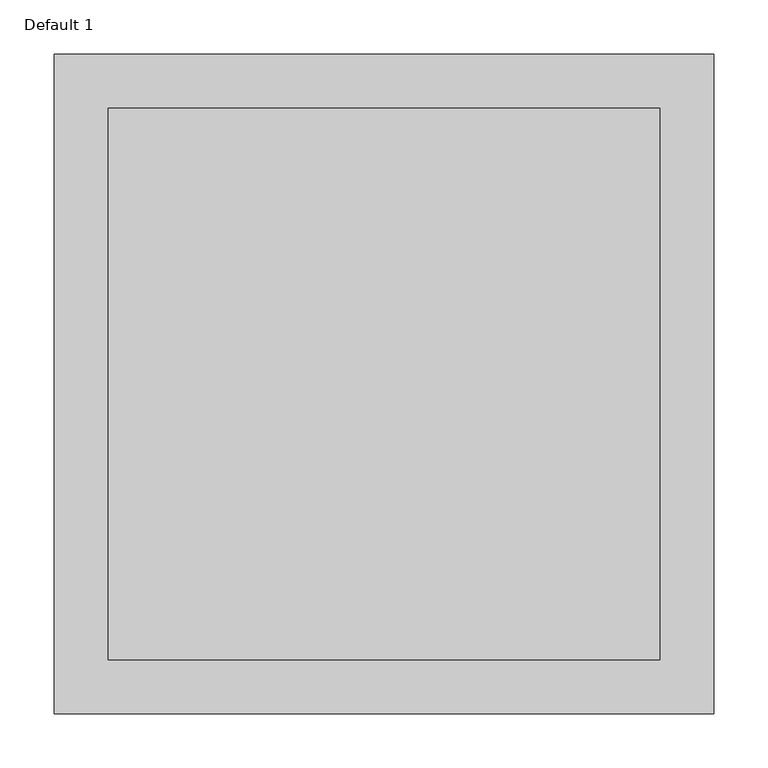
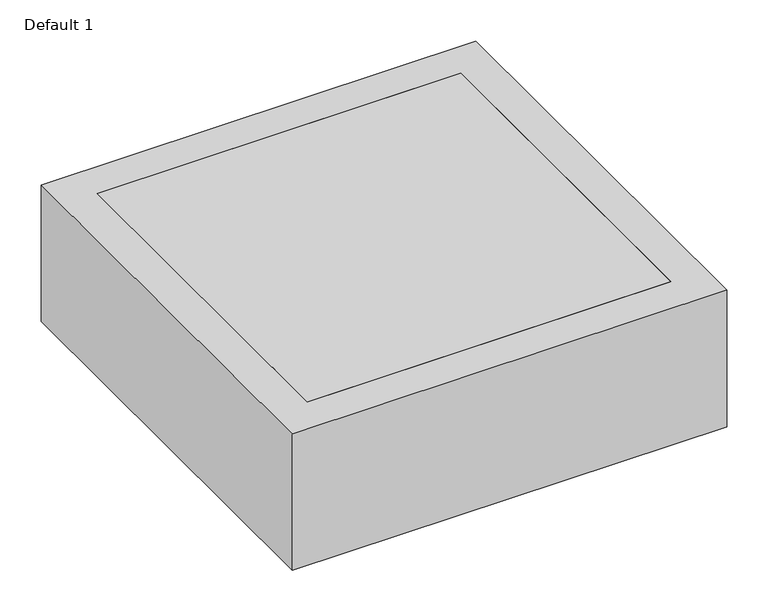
"""IFC4 building model written with IfcOpenShell, lengths in millimetres: proxy geometry, Skylite : Default 1."""

from ifc_helpers import new_model, si_unit, frame, origin, place, context, project, spatial, polyline, outline, extrude, source, transform, mapped, element, save


def default_1_f02fb337(model_context):
    return source(origin(), model_context, "Body", "SweptSolid", [
        extrude(outline(polyline([(-254.8, 254.8), (254.8, 254.8), (254.8, -254.8), (-254.8, -254.8), (-254.8, 254.8)])), frame((0.0, 0.0, 4157.0595878), z_axis=(0.0, 0.0, 1.0), x_axis=(1.0, 0.0, 0.0)), (0.0, 0.0, 1.0), 20.0),
        extrude(outline(polyline([(-304.8, -304.8), (-304.8, 304.8), (304.8, 304.8), (304.8, -304.8), (-304.8, -304.8)]), holes=[polyline([(254.8, 254.8), (-254.8, 254.8), (-254.8, -254.8), (254.8, -254.8), (254.8, 254.8)])]), frame((0.0, 0.0, 3974.6408791), z_axis=(0.0, 0.0, 1.0), x_axis=(1.0, 0.0, 0.0)), (0.0, 0.0, 1.0), 202.4187087),
    ])


if __name__ == "__main__":
    model = new_model("IFC4")
    model_context = context("Model", 3, world=origin())
    ifc_project = project(units=[si_unit("LENGTHUNIT", "METRE", prefix="MILLI")], contexts=[model_context])
    site = spatial("IfcSite", under=ifc_project)
    building = spatial("IfcBuilding", under=site)
    placement = place(None, origin())
    default_1_shape = default_1_f02fb337(model_context)
    element("IfcBuildingElementProxy", 1, Name="Skylite : Default 1", ObjectType="Skylite : Default 1", at=placement, inside=building, context=model_context, shape_type="MappedRepresentation", body=[
        mapped(default_1_shape, transform((0.0, 0.0, 0.0), x_axis=(1.0, 0.0, 0.0), y_axis=(0.0, 1.0, 0.0), z_axis=(0.0, 0.0, 1.0))),
    ])
    save(model, "model.ifc")
